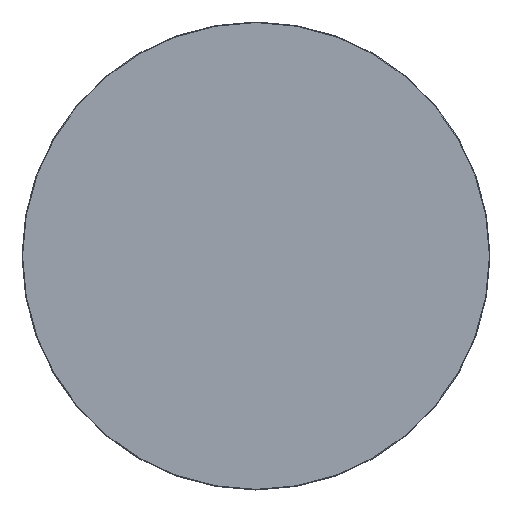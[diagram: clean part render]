
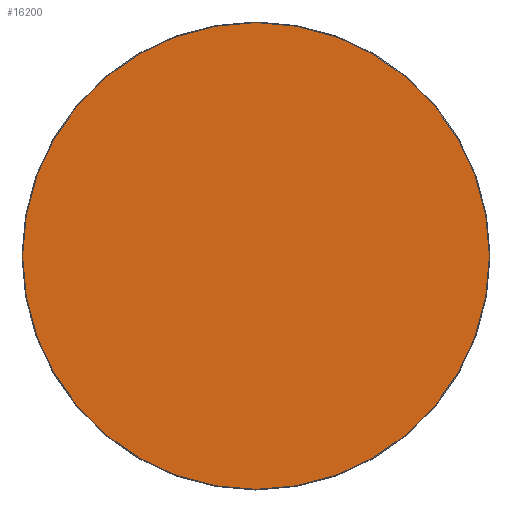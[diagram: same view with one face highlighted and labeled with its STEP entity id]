
A CAD part, top view. The second image highlights one B-rep face of the part: STEP entity #16200.
In plain terms, the highlighted planar face has unit normal (0, 0, 1).
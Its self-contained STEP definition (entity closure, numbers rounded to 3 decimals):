
#16125=CARTESIAN_POINT('',(0.,0.,20.));
#16126=DIRECTION('',(1.,0.,0.));
#16127=DIRECTION('',(0.,0.,1.));
#16128=AXIS2_PLACEMENT_3D('',#16125,#16127,#16126);
#16129=PLANE('',#16128);
#16130=CARTESIAN_POINT('',(-0.5,-548.5,20.));
#16131=VERTEX_POINT('',#16130);
#16132=CARTESIAN_POINT('',(0.5,-548.5,20.));
#16133=VERTEX_POINT('',#16132);
#16134=CARTESIAN_POINT('',(-0.5,-548.5,20.));
#16135=DIRECTION('',(1.,0.,0.));
#16136=VECTOR('',#16135,1.);
#16137=LINE('',#16134,#16136);
#16138=EDGE_CURVE('',#16131,#16133,#16137,.T.);
#16139=ORIENTED_EDGE('E105',*,*,#16138,.T.);
#16140=CARTESIAN_POINT('',(548.5,-0.5,20.));
#16141=VERTEX_POINT('',#16140);
#16142=CARTESIAN_POINT('',(0.5,-0.5,20.));
#16143=DIRECTION('',(0.,-1.,0.));
#16144=DIRECTION('',(0.,-0.,1.));
#16145=AXIS2_PLACEMENT_3D('',#16142,#16144,#16143);
#16146=CIRCLE('',#16145,548.);
#16147=EDGE_CURVE('',#16133,#16141,#16146,.T.);
#16148=ORIENTED_EDGE('E107',*,*,#16147,.T.);
#16149=CARTESIAN_POINT('',(548.5,0.5,20.));
#16150=VERTEX_POINT('',#16149);
#16151=CARTESIAN_POINT('',(548.5,-0.5,20.));
#16152=DIRECTION('',(0.,1.,0.));
#16153=VECTOR('',#16152,1.);
#16154=LINE('',#16151,#16153);
#16155=EDGE_CURVE('',#16141,#16150,#16154,.T.);
#16156=ORIENTED_EDGE('E109',*,*,#16155,.T.);
#16157=CARTESIAN_POINT('',(0.5,548.5,20.));
#16158=VERTEX_POINT('',#16157);
#16159=CARTESIAN_POINT('',(0.5,0.5,20.));
#16160=DIRECTION('',(1.,0.,0.));
#16161=DIRECTION('',(0.,0.,1.));
#16162=AXIS2_PLACEMENT_3D('',#16159,#16161,#16160);
#16163=CIRCLE('',#16162,548.);
#16164=EDGE_CURVE('',#16150,#16158,#16163,.T.);
#16165=ORIENTED_EDGE('E111',*,*,#16164,.T.);
#16166=CARTESIAN_POINT('',(-0.5,548.5,20.));
#16167=VERTEX_POINT('',#16166);
#16168=CARTESIAN_POINT('',(0.5,548.5,20.));
#16169=DIRECTION('',(-1.,0.,0.));
#16170=VECTOR('',#16169,1.);
#16171=LINE('',#16168,#16170);
#16172=EDGE_CURVE('',#16158,#16167,#16171,.T.);
#16173=ORIENTED_EDGE('E113',*,*,#16172,.T.);
#16174=CARTESIAN_POINT('',(-548.5,0.5,20.));
#16175=VERTEX_POINT('',#16174);
#16176=CARTESIAN_POINT('',(-0.5,0.5,20.));
#16177=DIRECTION('',(0.,1.,0.));
#16178=DIRECTION('',(0.,0.,1.));
#16179=AXIS2_PLACEMENT_3D('',#16176,#16178,#16177);
#16180=CIRCLE('',#16179,548.);
#16181=EDGE_CURVE('',#16167,#16175,#16180,.T.);
#16182=ORIENTED_EDGE('E115',*,*,#16181,.T.);
#16183=CARTESIAN_POINT('',(-548.5,-0.5,20.));
#16184=VERTEX_POINT('',#16183);
#16185=CARTESIAN_POINT('',(-548.5,0.5,20.));
#16186=DIRECTION('',(0.,-1.,0.));
#16187=VECTOR('',#16186,1.);
#16188=LINE('',#16185,#16187);
#16189=EDGE_CURVE('',#16175,#16184,#16188,.T.);
#16190=ORIENTED_EDGE('E117',*,*,#16189,.T.);
#16191=CARTESIAN_POINT('',(-0.5,-0.5,20.));
#16192=DIRECTION('',(-1.,0.,0.));
#16193=DIRECTION('',(0.,0.,1.));
#16194=AXIS2_PLACEMENT_3D('',#16191,#16193,#16192);
#16195=CIRCLE('',#16194,548.);
#16196=EDGE_CURVE('',#16184,#16131,#16195,.T.);
#16197=ORIENTED_EDGE('E119',*,*,#16196,.T.);
#16198=EDGE_LOOP('',(#16139,#16148,#16156,#16165,#16173,#16182,#16190,#16197));
#16199=FACE_OUTER_BOUND('',#16198,.T.);
#16200=ADVANCED_FACE('F2',(#16199),#16129,.T.);
